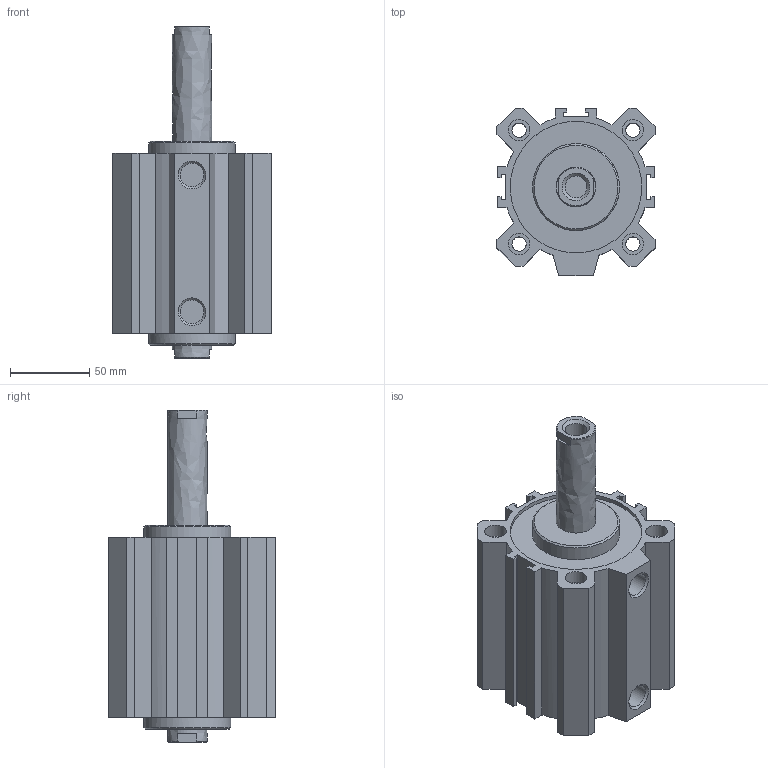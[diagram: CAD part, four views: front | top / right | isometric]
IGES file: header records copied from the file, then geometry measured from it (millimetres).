
Global section: file name: 1514_80_0065; native system: Autodesk Inventor 2014; preprocessor: unknown; author: A. Manieri; date: 20160824.142410; units: millimetre
Bounding box: 100 x 106 x 210 mm (x, y, z)
Volume: 692614.5 mm3; surface area: 159940.9 mm2
Topology: 2 solids, 2 shells, 132 faces, 346 edges, 238 vertices
Faces by surface type: bspline 132
